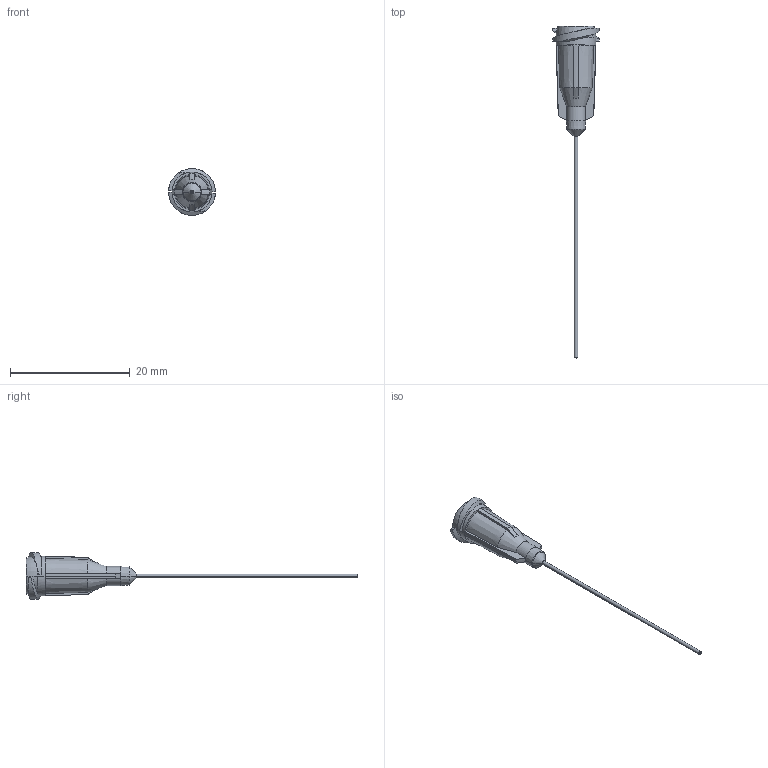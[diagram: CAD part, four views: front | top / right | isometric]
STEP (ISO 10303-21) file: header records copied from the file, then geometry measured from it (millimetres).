
FILE_DESCRIPTION (( 'STEP AP214' ), '1' );
FILE_NAME ('NORDSONEFD-7018307 TIP 23GA GP 013 X 15 OR.STEP', '2019-06-06T08:57:06', ( '' ), ( '' ), 'SwSTEP 2.0', 'SolidWorks 2019', '' );
FILE_SCHEMA (( 'AUTOMOTIVE_DESIGN' ));
Length unit declared in the file: inch
Products named in the file (1): NORDSONEFD-7018307 TIP 23GA GP 013 X 15 OR
Bounding box: 7.82 x 55.47 x 7.82 mm (x, y, z)
Volume: 273.3 mm3; surface area: 655.2 mm2
Topology: 1 solids, 1 shells, 98 faces, 228 edges, 136 vertices
Faces by surface type: plane 26, torus 22, cone 22, cylinder 16, bspline 12
Entity records: 3320 total; most frequent: CARTESIAN_POINT 997, DIRECTION 460, ORIENTED_EDGE 456, EDGE_CURVE 228, AXIS2_PLACEMENT_3D 201, VERTEX_POINT 136, CIRCLE 114, EDGE_LOOP 104
